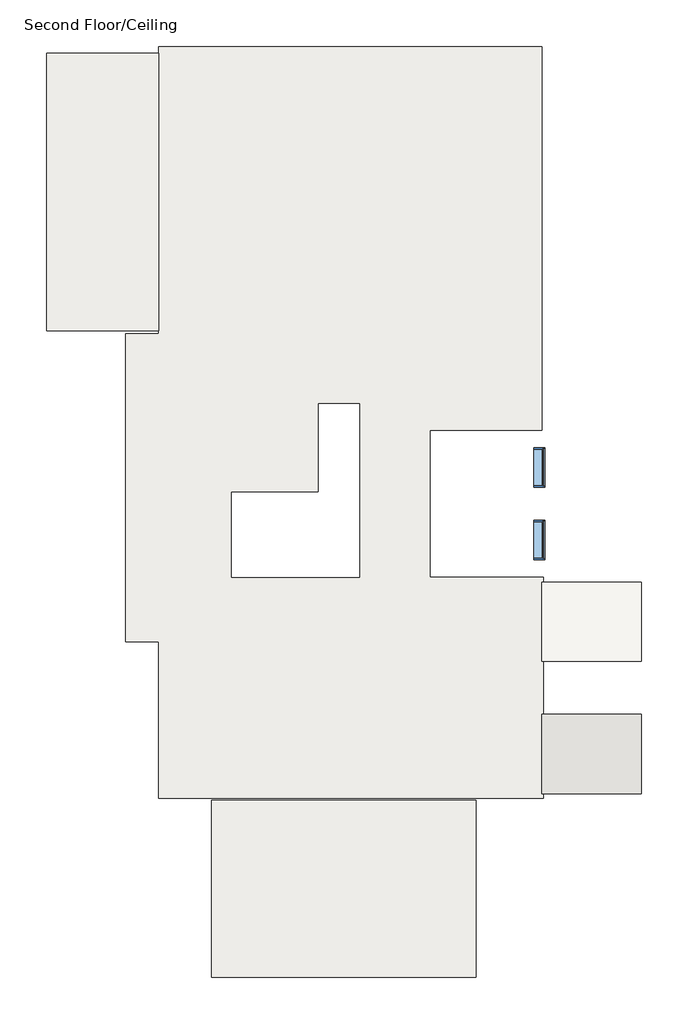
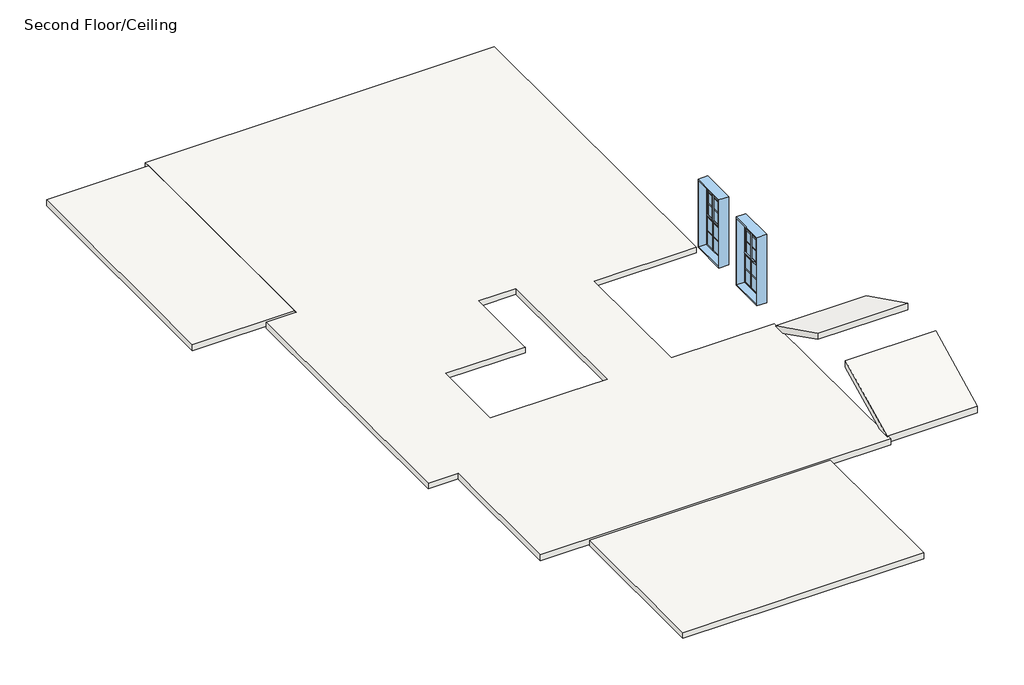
# One storey: 5 slabs, 2 windows.
"""IFC4 building model written with IfcOpenShell, lengths in millimetres."""

from ifc_helpers import new_model, si_unit, frame, origin, place, context, project, spatial, polyline, outline, extrude, faceted_brep, transform, mapped, element, save
from components import window_96_lite_window_with_shutters_3850_single_hung_3x3_51791338, window_96_lite_window_with_shutters_3850_single_hung_9_6_0142db39

model = new_model("IFC4")

# Units and contexts
model_context = context("Model", 3, world=origin())
ifc_project = project(units=[si_unit("LENGTHUNIT", "METRE", prefix="MILLI")], contexts=[model_context])

# Site, building, storey
site = spatial("IfcSite", under=ifc_project)
building = spatial("IfcBuilding", under=site)
storey = spatial("IfcBuildingStorey", under=building, Name="Second Floor/Ceiling", Elevation=2438.4)

# Slabs
placement = place(None, origin())
element("IfcSlab", 1, ObjectType="Ceiling 10 inch", at=placement, inside=storey, context=model_context, shape_type="SweptSolid", body=[
    extrude(outline(polyline([(-2110.0077303, 2439.4616201), (-3938.8077303, 3353.8616201), (-3938.8077303, 3524.25), (-2110.0077303, 2609.85), (-2110.0077303, 2439.4616201)])), frame((-1102.7230992, 0.0, 0.0), z_axis=(1.0, 0.0, 0.0), x_axis=(0.0, 1.0, 0.0)), (0.0, 0.0, 1.0), 2286.0),
])
element("IfcSlab", 2, ObjectType="Ceiling 10 inch", at=placement, inside=storey, context=model_context, shape_type="SweptSolid", body=[
    extrude(outline(polyline([(-5158.0077303, 3353.8616201), (-6986.8077303, 2439.4616201), (-6986.8077303, 2609.85), (-5158.0077303, 3524.25), (-5158.0077303, 3353.8616201)])), frame((-1102.7230992, 0.0, 0.0), z_axis=(1.0, 0.0, 0.0), x_axis=(0.0, 1.0, 0.0)), (0.0, 0.0, 1.0), 2286.0),
])
element("IfcSlab", 3, ObjectType="Ceiling 10 inch", at=placement, inside=storey, context=model_context, shape_type="SweptSolid", body=[
    extrude(outline(polyline([(-2626.7230992, -11223.8452303), (-8722.7230992, -11223.8452303), (-8722.7230992, -7140.7952303), (-2626.7230992, -7140.7952303), (-2626.7230992, -11223.8452303)])), frame((0.0, 0.0, 2438.4), z_axis=(0.0, 0.0, 1.0), x_axis=(1.0, 0.0, 0.0)), (0.0, 0.0, 1.0), 152.4),
])
element("IfcSlab", 4, ObjectType="Ceiling 10 inch", at=placement, inside=storey, context=model_context, shape_type="SweptSolid", body=[
    extrude(outline(polyline([(-12532.7230992, 3681.1922697), (-12532.7230992, 10081.9922697), (-9941.9230992, 10081.9922697), (-9941.9230992, 3681.1922697), (-12532.7230992, 3681.1922697)])), frame((0.0, 0.0, 2438.4), z_axis=(0.0, 0.0, 1.0), x_axis=(1.0, 0.0, 0.0)), (0.0, 0.0, 1.0), 152.4),
])
element("IfcSlab", 5, ObjectType="Wood Joist 6\" - No Finish 2", at=placement, inside=storey, context=model_context, shape_type="Brep", body=[
    faceted_brep([(-10703.9230992, 3616.1047697, 2438.4), (-10551.5230992, 3616.1047697, 2438.4), (-9941.9290677, 3616.1047697, 2438.4), (-9941.9290677, 10081.9922697, 2438.4), (-9941.9290677, 10234.3922697, 2438.4), (-1255.1230992, 10234.3922697, 2438.4), (-1102.7171307, 10234.3922697, 2438.4), (-1102.7171307, 1388.8422697, 2438.4), (-3693.5230992, 1388.8422697, 2438.4), (-3693.5230992, -1995.7077303, 2438.4), (-1074.1480992, -1995.7077303, 2438.4), (-1074.1480992, -7088.4077303, 2438.4), (-9789.5230992, -7088.4077303, 2438.4), (-9941.9230992, -7088.4077303, 2438.4), (-9941.9230992, -3510.1827303, 2438.4), (-9941.9230992, -3481.6077303, 2438.4), (-10703.9230992, -3481.6077303, 2438.4), (-10703.9230992, -3329.2077303, 2438.4), (-5312.7730992, -1995.7077303, 2438.4), (-5312.7730992, 2000.0297697, 2438.4), (-6258.9230992, 2000.0297697, 2438.4), (-6258.9230992, -36.7327303, 2438.4), (-8265.5230992, -36.7327303, 2438.4), (-8265.5230992, -1995.7077303, 2438.4), (-6316.0730992, -1995.7077303, 2438.4), (-10703.9230992, 3616.1047697, 2590.8), (-10703.9230992, -3329.2077303, 2590.8), (-10703.9230992, -3481.6077303, 2590.8), (-9941.9230992, -3481.6077303, 2590.8), (-9941.9230992, -3510.1827303, 2590.8), (-9941.9230992, -7088.4077303, 2590.8), (-9789.5230992, -7088.4077303, 2590.8), (-1074.1480992, -7088.4077303, 2590.8), (-1074.1480992, -1995.7077303, 2590.8), (-3693.5230992, -1995.7077303, 2590.8), (-3693.5230992, 1388.8422697, 2590.8), (-1102.7171307, 1388.8422697, 2590.8), (-1102.7171307, 10234.3922697, 2590.8), (-1255.1230992, 10234.3922697, 2590.8), (-9941.9290677, 10234.3922697, 2590.8), (-9941.9290677, 10081.9922697, 2590.8), (-9941.9290677, 3616.1047697, 2590.8), (-10551.5230992, 3616.1047697, 2590.8), (-5312.7730992, -1995.7077303, 2590.8), (-6316.0730992, -1995.7077303, 2590.8), (-8265.5230992, -1995.7077303, 2590.8), (-8265.5230992, -36.7327303, 2590.8), (-6258.9230992, -36.7327303, 2590.8), (-6258.9230992, 2000.0297697, 2590.8), (-5312.7730992, 2000.0297697, 2590.8)], [[[0, 1, 2, 3, 4, 5, 6, 7, 8, 9, 10, 11, 12, 13, 14, 15, 16, 17], [18, 19, 20, 21, 22, 23, 24]], [[25, 26, 27, 28, 29, 30, 31, 32, 33, 34, 35, 36, 37, 38, 39, 40, 41, 42], [43, 44, 45, 46, 47, 48, 49]], [[2, 1, 0, 25, 42, 41]], [[4, 3, 2, 41, 40, 39]], [[6, 5, 4, 39, 38, 37]], [[11, 10, 33, 32]], [[13, 12, 11, 32, 31, 30]], [[15, 14, 13, 30, 29, 28]], [[16, 15, 28, 27]], [[0, 17, 16, 27, 26, 25]], [[7, 6, 37, 36]], [[8, 7, 36, 35]], [[9, 8, 35, 34]], [[10, 9, 34, 33]], [[19, 18, 43, 49]], [[20, 19, 49, 48]], [[21, 20, 48, 47]], [[22, 21, 47, 46]], [[23, 22, 46, 45]], [[18, 24, 44, 43]], [[24, 23, 45, 44]]]),
])

# Windows
window_96_lite_window_with_shutters_3850_single_hung_3x3_shape = window_96_lite_window_with_shutters_3850_single_hung_3x3_51791338(model_context)
element("IfcWindow", 6, ObjectType="96_Lite_Window_with_Shutters_3850 : SINGLE HUNG 9/6 LITE", at=placement, inside=storey, context=model_context, shape_type="MappedRepresentation", body=[
    mapped(window_96_lite_window_with_shutters_3850_single_hung_3x3_shape, transform((-1164.6355992, -1138.4577303, 2590.8), x_axis=(0.0, -1.0, 0.0), y_axis=(1.0, 0.0, 0.0), z_axis=(0.0, 0.0, 1.0))),
])
window_96_lite_window_with_shutters_3850_single_hung_9_6_shape = window_96_lite_window_with_shutters_3850_single_hung_9_6_0142db39(model_context)
element("IfcWindow", 7, ObjectType="96_Lite_Window_with_Shutters_3850 : SINGLE HUNG 9/6 LITE", at=placement, inside=storey, context=model_context, shape_type="MappedRepresentation", body=[
    mapped(window_96_lite_window_with_shutters_3850_single_hung_9_6_shape, transform((-1164.6355992, 531.5922697, 2590.8), x_axis=(0.0, 1.0, 0.0), y_axis=(-1.0, 0.0, 0.0), z_axis=(0.0, 0.0, 1.0))),
])

save(model, "model.ifc")
